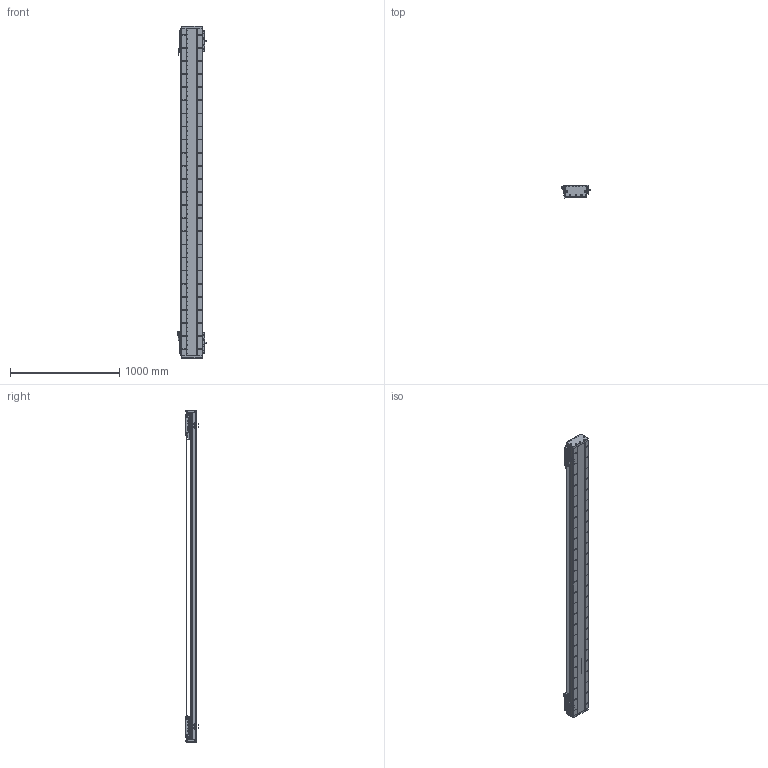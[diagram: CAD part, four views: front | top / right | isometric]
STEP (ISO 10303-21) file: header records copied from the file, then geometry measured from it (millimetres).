
FILE_DESCRIPTION (( 'STEP AP203' ), '1' );
FILE_NAME ('DA-C195-2-C2-T2540-C010-0.2 眻盄萇儂.STEP', '2025-08-14T02:12:38', ( '' ), ( '' ), 'SwSTEP 2.0', 'SolidWorks 2019', '' );
FILE_SCHEMA (( 'CONFIG_CONTROL_DESIGN' ));
Length unit declared in the file: millimetre
Products named in the file (19): DA195詩湍裔啣-1; DKW-KGZ-ZJ-00 中间光电开关支架-1; DA195詩湍嶺輸-1; IU-CU195-L-00 菁釱(L3000); MS200 棠掑喜S315-T1740-1; DKW168-HXJ-ZJ-00 笢潔滅袉砎蝶-1; DA-C195-GD-DB-H-00 傷啣-1; CU195-C2賑輸-俋楷-1; DA195詩湍郪璃-1; DA195詩湍菜輸-1; DA-C195-2-C2-T2540-C010-0.2 眻盄萇儂; PM-Y65嫖萇羲壽郪璃-1; LMT黍杅芛-1; IU-CU195-L 菁釱絳寢-1; DA95-HXJ-00 遣喳砎蝶-1; PM-T45ㄗ侂狟ㄘ-1; DKW-GYP-ZJ-00 笢潔嫖萇覜茼え-1; DA165-GYP-00 光电感应片(默认)-1; 葩璃 DA95-GT-T-00-1
Assembly tree (37 placements, depth 3):
  DA-C195-2-C2-T2540-C010-0.2 眻盄萇儂
    DA195詩湍郪璃-1
      DA195詩湍菜輸-1  x2
      DA195詩湍裔啣-1
      DA195詩湍嶺輸-1  x2
      DA95-HXJ-00 遣喳砎蝶-1  x8
      DA-C195-GD-DB-H-00 傷啣-1  x2
    IU-CU195-L 菁釱絳寢-1
      IU-CU195-L-00 菁釱(L3000)
      葩璃 DA95-GT-T-00-1  x4
    LMT黍杅芛-1  x2
    MS200 棠掑喜S315-T1740-1
    PM-T45ㄗ侂狟ㄘ-1  x4
    DA165-GYP-00 光电感应片(默认)-1  x2
    PM-Y65嫖萇羲壽郪璃-1
    DKW168-HXJ-ZJ-00 笢潔滅袉砎蝶-1
    DKW-GYP-ZJ-00 笢潔嫖萇覜茼え-1
    DKW-KGZ-ZJ-00 中间光电开关支架-1
    CU195-C2賑輸-俋楷-1  x2
Bounding box: 258.2 x 115.45 x 3040 mm (x, y, z)
Volume: 18376194.9 mm3; surface area: 5371858 mm2
Topology: 114 solids, 242 shells, 7175 faces, 19223 edges, 11985 vertices
Faces by surface type: cylinder 3460, plane 2631, cone 916, torus 88, sphere 72, bspline 8
Entity records: 159589 total; most frequent: CARTESIAN_POINT 43815, ORIENTED_EDGE 24278, DIRECTION 23010, EDGE_CURVE 12139, AXIS2_PLACEMENT_3D 8493, VERTEX_POINT 7872, VECTOR 6024, LINE 6024
